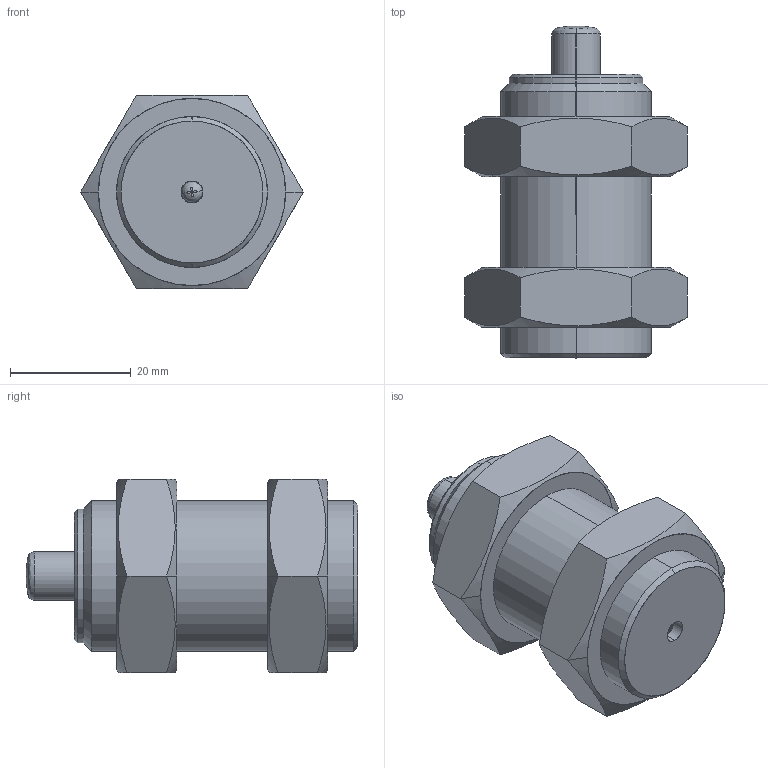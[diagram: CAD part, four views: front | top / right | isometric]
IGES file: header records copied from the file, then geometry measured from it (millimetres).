
Start section: SolidWorks IGES file using analytic representation for surfaces
Bounding box: 36.95 x 55 x 32 mm (x, y, z)
Surface area: 8881.8 mm2 (no closed solid volume)
Topology: 0 solids, 0 shells, 61 faces, 1140 edges, 1139 vertices
Faces by surface type: revolution 32, bspline 29
